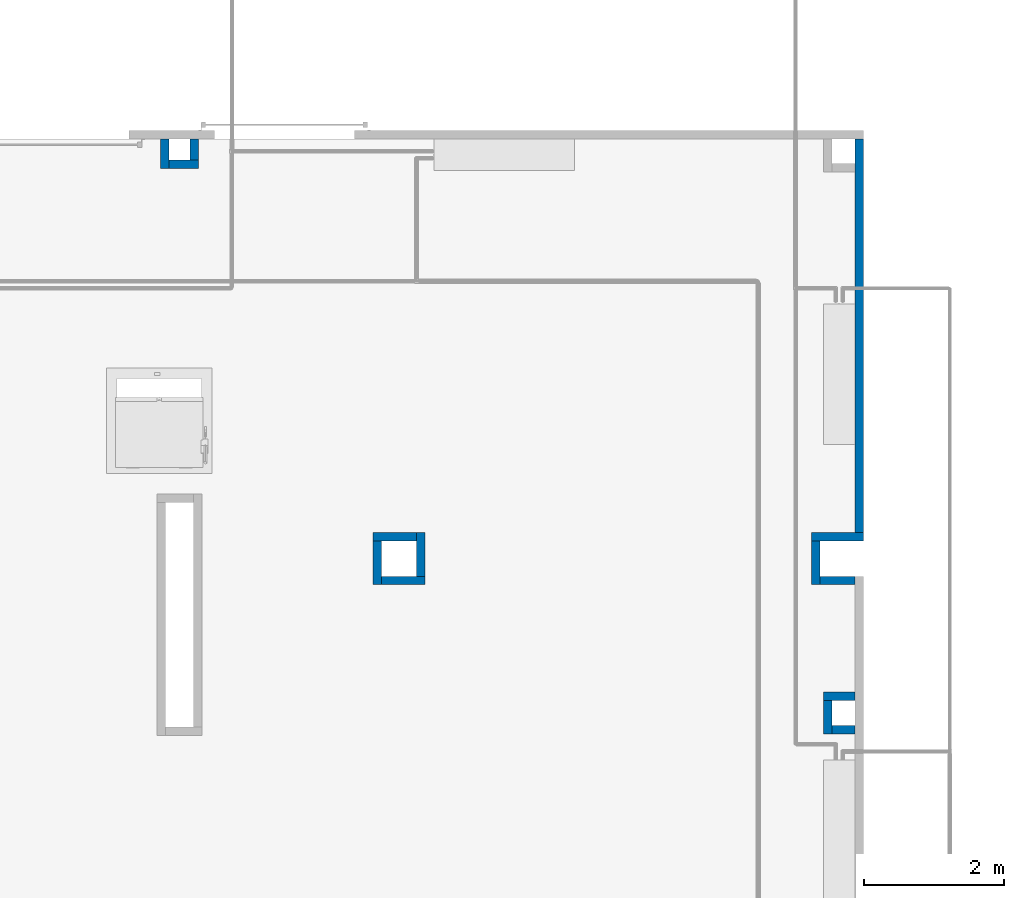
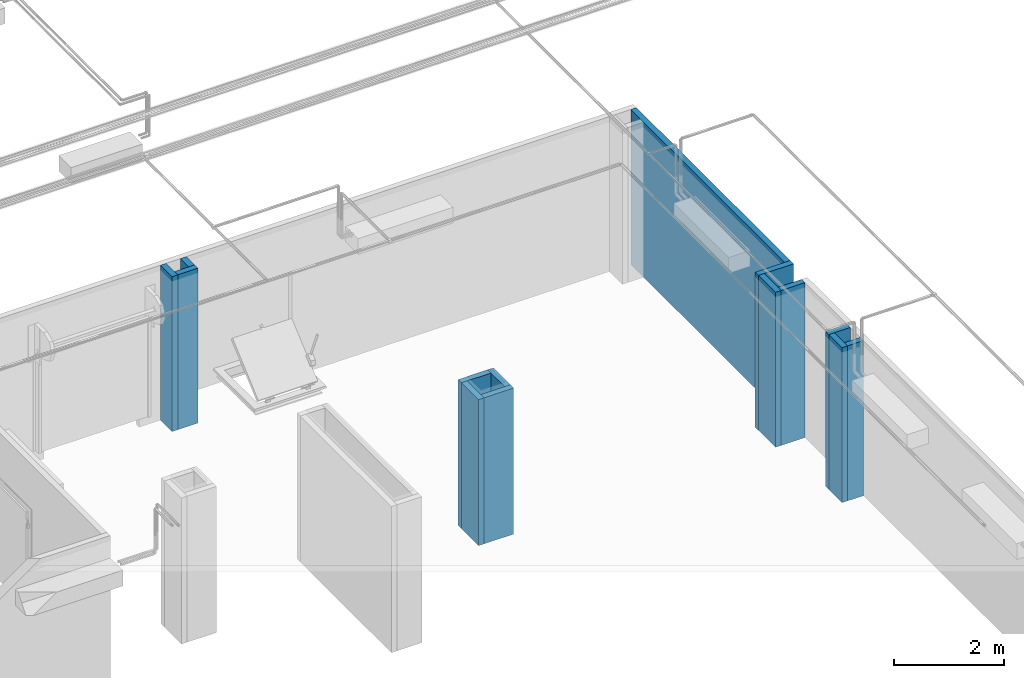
# One storey, part 22 of 652: 14 walls.
"""IFC2X3 building model written with IfcOpenShell, lengths in millimetres."""

import ifcopenshell
import ifcopenshell.guid

model = None  # the IFC model being written
_history = None  # IfcOwnerHistory: only IFC2X3 demands one
_inside = {}  # id of a spatial element -> (the spatial element, [elements in it])
_under = {}  # id of a project, library or spatial element -> (it, [spatial elements below it])
_declared = {}  # id of a project -> (the project, [libraries it declares])
_typed = {}  # id of a type object -> (the type object, [elements of that type])
_made_of = {}  # id of a material, layer set ... -> (it, [elements and type objects made of it])


def new_model(schema):
    """Start an empty IFC model of exactly this schema.

    Asked for "IFC4X3", IfcOpenShell would pick the latest addendum, in which some entities
    have other attributes; the version numbers below select the first issue.
    IFC2X3 requires an IfcOwnerHistory on every rooted entity: one is made here for all.
    """
    global model, _history
    if schema == "IFC4X3":
        model = ifcopenshell.file(schema_version=(4, 3, 0, 0))
    else:
        model = ifcopenshell.file(schema=schema)
    _inside.clear()
    _under.clear()
    _declared.clear()
    _typed.clear()
    _made_of.clear()
    _history = None
    if model.schema == "IFC2X3":
        org = make("IfcOrganization", Name="unknown")
        user = make(
            "IfcPersonAndOrganization",
            ThePerson=make("IfcPerson", FamilyName="unknown"),
            TheOrganization=org,
        )
        app = make(
            "IfcApplication",
            ApplicationDeveloper=org,
            Version="unknown",
            ApplicationFullName="unknown",
            ApplicationIdentifier="unknown",
        )
        _history = make(
            "IfcOwnerHistory",
            OwningUser=user,
            OwningApplication=app,
            ChangeAction="ADDED",
            CreationDate=0,
        )
    return model


def make(cls, **values):
    """One entity of the class cls with the attributes given. An attribute that is None is left unset."""
    return model.create_entity(
        cls, **{name: value for name, value in values.items() if value is not None}
    )


def entity(cls, *values):
    """Any entity or typed value of the class cls, its attributes in the order of the schema. None: left unset."""
    e = model.create_entity(cls)
    for i, value in enumerate(values):
        if value is not None:
            e[i] = value
    return e


def rooted(cls, **values):
    """An entity with a GlobalId (a new one), such as an element, a storey or a relation."""
    return make(cls, GlobalId=ifcopenshell.guid.new(), OwnerHistory=_history, **values)


def si_unit(unit_type, name, prefix=None):
    """IfcSIUnit, for example si_unit("LENGTHUNIT", "METRE", prefix="MILLI")."""
    return make("IfcSIUnit", UnitType=unit_type, Prefix=prefix, Name=name)


def converted_unit(unit_type, name, factor, base, dimensions=None, offset=None):
    """IfcConversionBasedUnit, such as the inch: factor (a typed value) times the base unit."""
    return make(
        "IfcConversionBasedUnit"
        if offset is None
        else "IfcConversionBasedUnitWithOffset",
        ConversionOffset=offset,
        Dimensions=None
        if dimensions is None
        else entity("IfcDimensionalExponents", *dimensions),
        UnitType=unit_type,
        Name=name,
        ConversionFactor=make(
            "IfcMeasureWithUnit", ValueComponent=factor, UnitComponent=base
        ),
    )


def assignment(units):
    """IfcUnitAssignment: the units of a project."""
    return None if units is None else make("IfcUnitAssignment", Units=units)


def point(xyz):
    """IfcCartesianPoint."""
    return None if xyz is None else make("IfcCartesianPoint", Coordinates=xyz)


def direction(xyz):
    """IfcDirection."""
    return None if xyz is None else make("IfcDirection", DirectionRatios=xyz)


def frame(location, z_axis=None, x_axis=None):
    """IfcAxis2Placement3D, a coordinate frame: its origin and axes. An axis left out is left unset."""
    return make(
        "IfcAxis2Placement3D",
        Location=point(location),
        Axis=direction(z_axis),
        RefDirection=direction(x_axis),
    )


def frame_2d(location, x_axis=None):
    """IfcAxis2Placement2D, a coordinate frame in the plane: its origin and x axis."""
    return make(
        "IfcAxis2Placement2D", Location=point(location), RefDirection=direction(x_axis)
    )


def origin():
    """The frame at (0, 0, 0) with its axes left unset."""
    return frame((0.0, 0.0, 0.0))


def place(relative_to, where):
    """IfcLocalPlacement: puts the frame where relative to a parent placement (None: the world)."""
    return make(
        "IfcLocalPlacement", PlacementRelTo=relative_to, RelativePlacement=where
    )


def context(
    kind, dimensions, precision=None, world=None, true_north=None, identifier=None
):
    """IfcGeometricRepresentationContext, for example the 3D "Model" context."""
    return make(
        "IfcGeometricRepresentationContext",
        ContextIdentifier=identifier,
        ContextType=kind,
        CoordinateSpaceDimension=dimensions,
        Precision=precision,
        WorldCoordinateSystem=world,
        TrueNorth=true_north,
    )


def subcontext(parent, identifier, kind, view, scale=None):
    """IfcGeometricRepresentationSubContext, for example "Body" below "Model"."""
    return make(
        "IfcGeometricRepresentationSubContext",
        ContextIdentifier=identifier,
        ContextType=kind,
        ParentContext=parent,
        TargetScale=scale,
        TargetView=view,
    )


def project(units=None, contexts=None):
    """IfcProject with its units and contexts."""
    return rooted(
        "IfcProject",
        Name="project",
        RepresentationContexts=contexts,
        UnitsInContext=assignment(units),
    )


def spatial(cls, under=None, at=None, **own):
    """A site, building, storey or space (cls), placed at a placement, below another one or the project."""
    s = rooted(cls, ObjectPlacement=at, **own)
    if under is not None:
        _under.setdefault(under.id(), (under, []))[1].append(s)
    return s


def profile(cls, at=None, kind="AREA", **sizes):
    """A parametric profile (cls). Its sizes go by their IFC names, for example OverallWidth=200.0."""
    return make(cls, ProfileType=kind, Position=at, **sizes)


def rectangle(**sizes):
    """IfcRectangleProfileDef."""
    return profile("IfcRectangleProfileDef", **sizes)


def extrude(swept, where, along, depth):
    """IfcExtrudedAreaSolid: the profile swept, set in the frame where, extruded along a direction by depth."""
    return make(
        "IfcExtrudedAreaSolid",
        SweptArea=swept,
        Position=where,
        ExtrudedDirection=direction(along),
        Depth=depth,
    )


def shape(context_of_items, identifier, shape_type, items):
    """IfcShapeRepresentation: the items that make up one representation, for example the "Body"."""
    return make(
        "IfcShapeRepresentation",
        ContextOfItems=context_of_items,
        RepresentationIdentifier=identifier,
        RepresentationType=shape_type,
        Items=items,
    )


def material(Name=None, Category=None):
    """IfcMaterial."""
    return make("IfcMaterial", Name=Name, Category=Category)


def layer(
    of_material, thickness, ventilated=None, Name=None, Category=None, Priority=None
):
    """IfcMaterialLayer: one layer of a wall or slab, of a material (None: an air gap)."""
    return make(
        "IfcMaterialLayer",
        Material=of_material,
        LayerThickness=thickness,
        IsVentilated=ventilated,
        Name=Name,
        Category=Category,
        Priority=Priority,
    )


def layer_set(layers, Name=None):
    """IfcMaterialLayerSet."""
    return make("IfcMaterialLayerSet", MaterialLayers=layers, LayerSetName=Name)


def layer_usage(for_layer_set, set_direction, sense, offset, extent=None):
    """IfcMaterialLayerSetUsage: how a layer set lies in its element."""
    return make(
        "IfcMaterialLayerSetUsage",
        ForLayerSet=for_layer_set,
        LayerSetDirection=set_direction,
        DirectionSense=sense,
        OffsetFromReferenceLine=offset,
        ReferenceExtent=extent,
    )


def made_of(thing, what):
    """Note that an element or type object is made of a material, layer set ...; save() writes the relation."""
    if what is not None:
        _made_of.setdefault(what.id(), (what, []))[1].append(thing)
    return thing


def type_object(cls, material=None, **own):
    """A type object (cls), such as IfcWallType, which elements share."""
    return made_of(rooted(cls, **own), material)


def element(
    cls,
    number,
    at=None,
    inside=None,
    cuts=None,
    type_object=None,
    material=None,
    context=None,
    identifier="Body",
    shape_type=None,
    held_by="IfcProductDefinitionShape",
    body=None,
    shapes=None,
    **own,
):
    """One element of the class cls, such as IfcWall. Its Tag is "e" and its number.

    at: its placement. inside: the storey or other place that contains it. cuts: it is an
    opening in that element (IfcRelVoidsElement). A single representation is given by context,
    identifier, shape_type and body (its items); several are given by shapes. held_by: the class
    of the entity that holds the representations. save() writes the other relations.
    """
    e = rooted(cls, Tag="e%d" % number, ObjectPlacement=at, **own)
    if body is not None:
        shapes = [shape(context, identifier, shape_type, body)]
    if shapes is not None:
        e.Representation = make(held_by, Representations=shapes)
    if inside is not None:
        _inside.setdefault(inside.id(), (inside, []))[1].append(e)
    if cuts is not None:
        rooted(
            "IfcRelVoidsElement", RelatingBuildingElement=cuts, RelatedOpeningElement=e
        )
    if type_object is not None:
        _typed.setdefault(type_object.id(), (type_object, []))[1].append(e)
    return made_of(e, material)


def aggregate(whole, parts):
    """IfcRelAggregates: a whole, such as a stair, and the parts it consists of."""
    return rooted("IfcRelAggregates", RelatingObject=whole, RelatedObjects=parts)


def save(model, path):
    """Write the relations noted so far, then the file.

    IfcRelAggregates (storeys below a building ...), IfcRelContainedInSpatialStructure (elements
    in a storey), IfcRelDefinesByType, IfcRelAssociatesMaterial and IfcRelDeclares: one each for
    every whole, place, type object, material and project.
    """
    for whole, parts in _under.values():
        aggregate(whole, parts)
    for where, things in _inside.values():
        rooted(
            "IfcRelContainedInSpatialStructure",
            RelatedElements=things,
            RelatingStructure=where,
        )
    for kind, things in _typed.values():
        rooted("IfcRelDefinesByType", RelatedObjects=things, RelatingType=kind)
    for what, things in _made_of.values():
        rooted("IfcRelAssociatesMaterial", RelatedObjects=things, RelatingMaterial=what)
    for by, libraries in _declared.values():
        rooted("IfcRelDeclares", RelatingContext=by, RelatedDefinitions=libraries)
    model.write(path)


model = new_model("IFC2X3")

# Units and contexts
model_context = context("Model", 3, precision=0.01, world=frame((0.0, 0.0, 308426.39999999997)), true_north=direction((6.123233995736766e-17, 1.0)))
plan_context = context("Plan", 3, precision=0.01, world=frame((0.0, 0.0, 308426.39999999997)), true_north=direction((6.123233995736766e-17, 1.0)))
body_context = subcontext(model_context, "Body", "Model", "MODEL_VIEW")
ifc_project = project(units=[si_unit("LENGTHUNIT", "METRE", prefix="MILLI"), si_unit("AREAUNIT", "SQUARE_METRE"), si_unit("VOLUMEUNIT", "CUBIC_METRE"), converted_unit("PLANEANGLEUNIT", "DEGREE", entity("IfcPlaneAngleMeasure", 0.017453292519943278), si_unit("PLANEANGLEUNIT", "RADIAN"), dimensions=[0, 0, 0, 0, 0, 0, 0])], contexts=[model_context, plan_context])

# Site, building, storey
site_placement = place(None, origin())
site = spatial("IfcSite", under=ifc_project, at=site_placement, Name="Default", CompositionType="ELEMENT")
building_placement = place(site_placement, origin())
building = spatial("IfcBuilding", under=site, at=building_placement, CompositionType="ELEMENT")
storey_placement = place(building_placement, frame((0.0, 0.0, 1730.6999999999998)))
storey = spatial("IfcBuildingStorey", under=building, at=storey_placement, Name="EG_Produktion_FFB", CompositionType="ELEMENT", Elevation=1730.6999999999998)

# Walls
ifc_material = material(Name="GPG_Paneelwand")
ifc_layer = layer(ifc_material, 120.0)
ifc_layer_set = layer_set([ifc_layer], Name="Basiswand:Kühlzellen Paneelwand 120")
ifc_layer_usage_1 = layer_usage(ifc_layer_set, "AXIS2", "NEGATIVE", 60.0)
wall_type = type_object("IfcWallType", Name="Basiswand:Kühlzellen Paneelwand 120", PredefinedType="STANDARD", material=ifc_layer_set)
wall_1_placement = place(storey_placement, frame((59630.0, 51910.0, -250.0)))
element("IfcWallStandardCase", 1, at=wall_1_placement, inside=storey, type_object=wall_type, material=ifc_layer_usage_1, Name="Basiswand:Kühlzellen Paneelwand 120", ObjectType="Basiswand:Kühlzellen Paneelwand 120", context=body_context, shape_type="SweptSolid", body=[
    extrude(rectangle(XDim=620.0000000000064, YDim=120.00000000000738, at=frame_2d((310.0000000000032, 0.0), x_axis=(-1.0, 0.0))), origin(), (0.0, 0.0, 1.0), 3249.9999999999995),
])
ifc_layer_usage_2 = layer_usage(ifc_layer_set, "AXIS2", "NEGATIVE", 60.0)
wall_2_placement = place(storey_placement, frame((59690.0, 51230.0, -250.0), z_axis=(0.0, 0.0, 1.0), x_axis=(0.0, 1.0, 0.0)))
element("IfcWallStandardCase", 2, at=wall_2_placement, inside=storey, type_object=wall_type, material=ifc_layer_usage_2, Name="Basiswand:Kühlzellen Paneelwand 120", ObjectType="Basiswand:Kühlzellen Paneelwand 120", context=body_context, shape_type="SweptSolid", body=[
    extrude(rectangle(XDim=619.9999999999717, YDim=120.00000000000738, at=frame_2d((309.99999999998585, 0.0), x_axis=(-1.0, 0.0))), origin(), (0.0, 0.0, 1.0), 3249.9999999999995),
])
ifc_layer_usage_3 = layer_usage(ifc_layer_set, "AXIS2", "NEGATIVE", 60.0)
wall_3_placement = place(storey_placement, frame((60370.0, 51290.0, -250.0), z_axis=(0.0, 0.0, 1.0), x_axis=(-1.0, 0.0, 0.0)))
element("IfcWallStandardCase", 3, at=wall_3_placement, inside=storey, type_object=wall_type, material=ifc_layer_usage_3, Name="Basiswand:Kühlzellen Paneelwand 120", ObjectType="Basiswand:Kühlzellen Paneelwand 120", context=body_context, shape_type="SweptSolid", body=[
    extrude(rectangle(XDim=620.0000000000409, YDim=120.00000000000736, at=frame_2d((310.00000000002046, -2.3447910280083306e-12), x_axis=(-1.0, 0.0))), origin(), (0.0, 0.0, 1.0), 3249.9999999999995),
])
ifc_layer_usage_4 = layer_usage(ifc_layer_set, "AXIS2", "NEGATIVE", 60.0)
wall_4_placement = place(storey_placement, frame((60310.0, 51970.0, -250.0), z_axis=(0.0, 0.0, 1.0), x_axis=(0.0, -1.0, 0.0)))
element("IfcWallStandardCase", 4, at=wall_4_placement, inside=storey, type_object=wall_type, material=ifc_layer_usage_4, Name="Basiswand:Kühlzellen Paneelwand 120", ObjectType="Basiswand:Kühlzellen Paneelwand 120", context=body_context, shape_type="SweptSolid", body=[
    extrude(rectangle(XDim=620.0000000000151, YDim=120.00000000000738, at=frame_2d((310.00000000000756, -5.790923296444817e-13), x_axis=(-1.0, 0.0))), origin(), (0.0, 0.0, 1.0), 3249.9999999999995),
])
ifc_layer_usage_5 = layer_usage(ifc_layer_set, "AXIS2", "NEGATIVE", 60.0)
wall_5_placement = place(storey_placement, frame((66620.0, 51910.0, -250.0), z_axis=(0.0, 0.0, 1.0), x_axis=(-1.0, 0.0, 0.0)))
element("IfcWallStandardCase", 5, at=wall_5_placement, inside=storey, type_object=wall_type, material=ifc_layer_usage_5, Name="Basiswand:Kühlzellen Paneelwand 120", ObjectType="Basiswand:Kühlzellen Paneelwand 120", context=body_context, shape_type="SweptSolid", body=[
    extrude(rectangle(XDim=740.0000000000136, YDim=120.00000000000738, at=frame_2d((370.0000000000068, 0.0), x_axis=(-1.0, 0.0))), origin(), (0.0, 0.0, 1.0), 3449.9999999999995),
])
ifc_layer_usage_6 = layer_usage(ifc_layer_set, "AXIS2", "NEGATIVE", 60.0)
wall_6_placement = place(storey_placement, frame((65940.0, 51850.0, -250.0), z_axis=(0.0, 0.0, 1.0), x_axis=(0.0, -1.0, 0.0)))
element("IfcWallStandardCase", 6, at=wall_6_placement, inside=storey, type_object=wall_type, material=ifc_layer_usage_6, Name="Basiswand:Kühlzellen Paneelwand 120", ObjectType="Basiswand:Kühlzellen Paneelwand 120", context=body_context, shape_type="SweptSolid", body=[
    extrude(rectangle(XDim=619.999999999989, YDim=120.00000000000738, at=frame_2d((309.9999999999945, 0.0), x_axis=(-1.0, 0.0))), origin(), (0.0, 0.0, 1.0), 3449.9999999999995),
])
ifc_layer_usage_7 = layer_usage(ifc_layer_set, "AXIS2", "NEGATIVE", 60.0)
wall_7_placement = place(storey_placement, frame((66000.0, 51290.0, -250.0)))
element("IfcWallStandardCase", 7, at=wall_7_placement, inside=storey, type_object=wall_type, material=ifc_layer_usage_7, Name="Basiswand:Kühlzellen Paneelwand 120", ObjectType="Basiswand:Kühlzellen Paneelwand 120", context=body_context, shape_type="SweptSolid", body=[
    extrude(rectangle(XDim=500.00000000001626, YDim=120.00000000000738, at=frame_2d((250.00000000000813, 0.0), x_axis=(-1.0, 0.0))), origin(), (0.0, 0.0, 1.0), 3449.9999999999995),
])
ifc_layer_usage_8 = layer_usage(ifc_layer_set, "AXIS2", "NEGATIVE", 60.0)
wall_8_placement = place(storey_placement, frame((66500.0, 49639.89680373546, -250.0), z_axis=(0.0, 0.0, 1.0), x_axis=(-1.0, 0.0, 0.0)))
element("IfcWallStandardCase", 8, at=wall_8_placement, inside=storey, type_object=wall_type, material=ifc_layer_usage_8, Name="Basiswand:Kühlzellen Paneelwand 120", ObjectType="Basiswand:Kühlzellen Paneelwand 120", context=body_context, shape_type="SweptSolid", body=[
    extrude(rectangle(XDim=450.00000000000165, YDim=120.00000000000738, at=frame_2d((225.00000000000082, 0.0), x_axis=(-1.0, 0.0))), origin(), (0.0, 0.0, 1.0), 3449.9999999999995),
])
ifc_layer_usage_9 = layer_usage(ifc_layer_set, "AXIS2", "NEGATIVE", 60.0)
wall_9_placement = place(storey_placement, frame((66110.0, 49579.89680373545, -250.0), z_axis=(0.0, 0.0, 1.0), x_axis=(0.0, -1.0, 0.0)))
element("IfcWallStandardCase", 9, at=wall_9_placement, inside=storey, type_object=wall_type, material=ifc_layer_usage_9, Name="Basiswand:Kühlzellen Paneelwand 120", ObjectType="Basiswand:Kühlzellen Paneelwand 120", context=body_context, shape_type="SweptSolid", body=[
    extrude(rectangle(XDim=480.0000000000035, YDim=120.00000000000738, at=frame_2d((240.00000000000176, 0.0), x_axis=(-1.0, 0.0))), origin(), (0.0, 0.0, 1.0), 3449.9999999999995),
])
ifc_layer_usage_10 = layer_usage(ifc_layer_set, "AXIS2", "NEGATIVE", 60.0)
wall_10_placement = place(storey_placement, frame((66170.0, 49159.89680373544, -250.0)))
element("IfcWallStandardCase", 10, at=wall_10_placement, inside=storey, type_object=wall_type, material=ifc_layer_usage_10, Name="Basiswand:Kühlzellen Paneelwand 120", ObjectType="Basiswand:Kühlzellen Paneelwand 120", context=body_context, shape_type="SweptSolid", body=[
    extrude(rectangle(XDim=330.00000000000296, YDim=120.00000000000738, at=frame_2d((165.00000000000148, 0.0), x_axis=(-1.0, 0.0))), origin(), (0.0, 0.0, 1.0), 3449.9999999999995),
])
ifc_layer_usage_11 = layer_usage(ifc_layer_set, "AXIS2", "POSITIVE", -60.0)
wall_11_placement = place(storey_placement, frame((66560.0, 51970.0, -250.0), z_axis=(0.0, 0.0, 1.0), x_axis=(0.0, 1.0, 0.0)))
element("IfcWallStandardCase", 11, at=wall_11_placement, inside=storey, type_object=wall_type, material=ifc_layer_usage_11, Name="Basiswand:Kühlzellen Paneelwand 120", ObjectType="Basiswand:Kühlzellen Paneelwand 120", context=body_context, shape_type="SweptSolid", body=[
    extrude(rectangle(XDim=5609.9999999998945, YDim=120.00000000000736, at=frame_2d((2804.9999999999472, -6.323830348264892e-13), x_axis=(-1.0, 0.0))), origin(), (0.0, 0.0, 1.0), 3449.9999999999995),
])
ifc_layer_usage_12 = layer_usage(ifc_layer_set, "AXIS2", "NEGATIVE", 60.0)
wall_12_placement = place(storey_placement, frame((56665.000000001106, 57580.0, -250.0), z_axis=(0.0, 0.0, 1.0), x_axis=(0.0, -1.0, 0.0)))
element("IfcWallStandardCase", 12, at=wall_12_placement, inside=storey, type_object=wall_type, material=ifc_layer_usage_12, Name="Basiswand:Kühlzellen Paneelwand 120", ObjectType="Basiswand:Kühlzellen Paneelwand 120", context=body_context, shape_type="SweptSolid", body=[
    extrude(rectangle(XDim=419.99999999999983, YDim=120.00000000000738, at=frame_2d((209.99999999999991, 0.0), x_axis=(-1.0, 0.0))), origin(), (0.0, 0.0, 1.0), 3449.9999999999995),
])
ifc_layer_usage_13 = layer_usage(ifc_layer_set, "AXIS2", "NEGATIVE", 60.0)
wall_13_placement = place(storey_placement, frame((56725.00000000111, 57220.0, -250.0)))
element("IfcWallStandardCase", 13, at=wall_13_placement, inside=storey, type_object=wall_type, material=ifc_layer_usage_13, Name="Basiswand:Kühlzellen Paneelwand 120", ObjectType="Basiswand:Kühlzellen Paneelwand 120", context=body_context, shape_type="SweptSolid", body=[
    extrude(rectangle(XDim=419.99999999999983, YDim=120.00000000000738, at=frame_2d((209.99999999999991, 0.0), x_axis=(-1.0, 0.0))), origin(), (0.0, 0.0, 1.0), 3449.9999999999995),
])
ifc_layer_usage_14 = layer_usage(ifc_layer_set, "AXIS2", "POSITIVE", -60.0)
wall_14_placement = place(storey_placement, frame((57085.000000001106, 57580.0, -250.0), z_axis=(0.0, 0.0, 1.0), x_axis=(0.0, -1.0, 0.0)))
element("IfcWallStandardCase", 14, at=wall_14_placement, inside=storey, type_object=wall_type, material=ifc_layer_usage_14, Name="Basiswand:Kühlzellen Paneelwand 120", ObjectType="Basiswand:Kühlzellen Paneelwand 120", context=body_context, shape_type="SweptSolid", body=[
    extrude(rectangle(XDim=300.0000000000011, YDim=120.00000000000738, at=frame_2d((150.00000000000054, 0.0), x_axis=(-1.0, 0.0))), origin(), (0.0, 0.0, 1.0), 3449.9999999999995),
])

save(model, "model.ifc")
